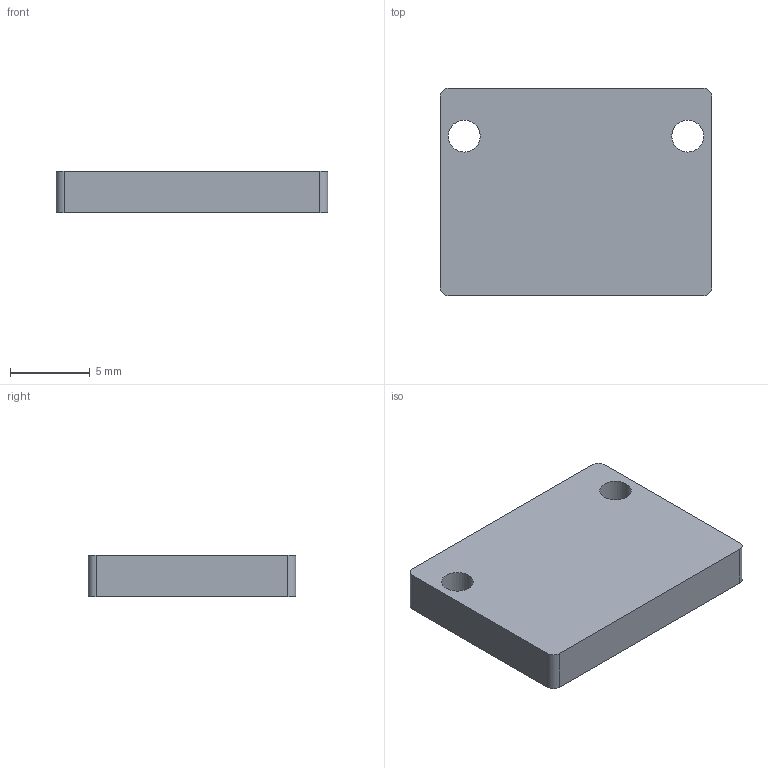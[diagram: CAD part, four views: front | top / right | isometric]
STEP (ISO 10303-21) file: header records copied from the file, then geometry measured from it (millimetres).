
FILE_DESCRIPTION (( 'STEP AP203' ), '1' );
FILE_NAME ('v4giroscopio.STEP', '2026-08-19T20:49:52', ( '' ), ( '' ), 'SwSTEP 2.0', 'SolidWorks 2024', '' );
FILE_SCHEMA (( 'CONFIG_CONTROL_DESIGN' ));
Length unit declared in the file: millimetre
Products named in the file (1): v4giroscopio
Bounding box: 17 x 13 x 2.6 mm (x, y, z)
Volume: 557.7 mm3; surface area: 615.4 mm2
Topology: 1 solids, 1 shells, 12 faces, 30 edges, 20 vertices
Faces by surface type: plane 6, cylinder 6
Full cylindrical faces by diameter (mm): 2 x2
Entity records: 439 total; most frequent: DIRECTION 66, CARTESIAN_POINT 61, ORIENTED_EDGE 56, EDGE_CURVE 28, AXIS2_PLACEMENT_3D 25, VERTEX_POINT 20, EDGE_LOOP 18, LINE 16
